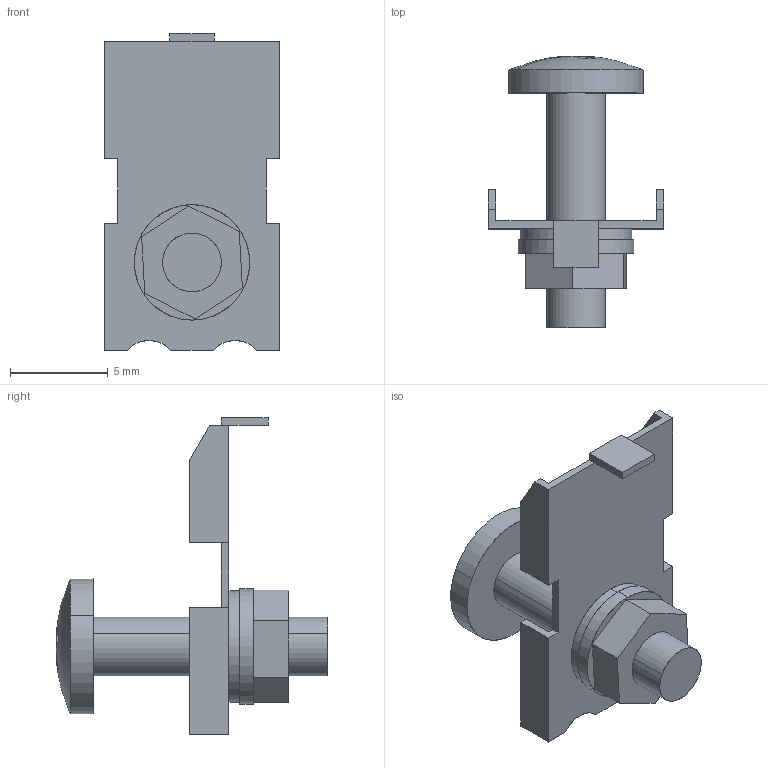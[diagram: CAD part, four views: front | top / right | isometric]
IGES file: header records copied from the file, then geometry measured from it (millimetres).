
Start section: SolidWorks IGES file using analytic representation for surfaces
Global section: file name: C:\catalog\MS-GXL8-4.IGS; native system: SolidWorks 2005 by SolidWorks Corporation; preprocessor: SolidWorks 2005 by SolidWorks Corporation; author: yk0651; date: 070713.134719; units: millimetre
Bounding box: 9 x 13.88 x 16.2 mm (x, y, z)
Surface area: 793.3 mm2 (no closed solid volume)
Topology: 0 solids, 0 shells, 81 faces, 912 edges, 912 vertices
Faces by surface type: bspline 59, revolution 22
